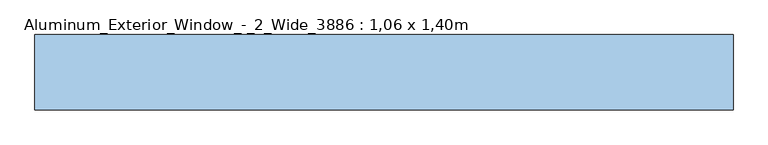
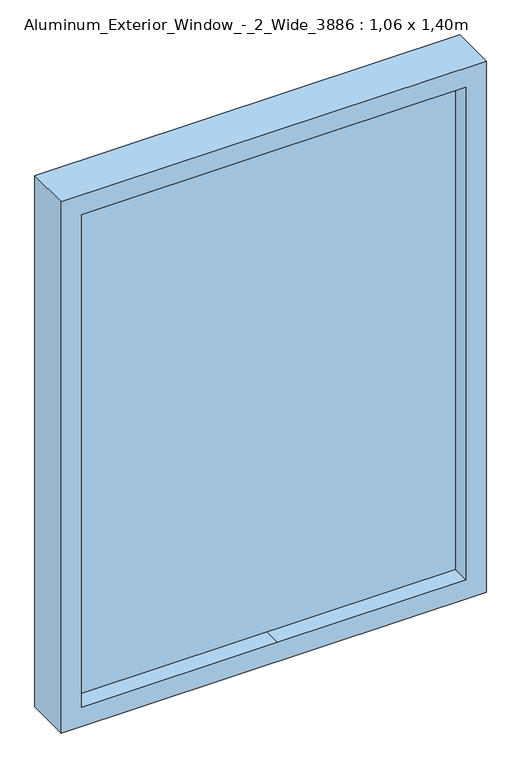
"""IFC4 building model written with IfcOpenShell, lengths in millimetres: window geometry, Aluminum_Exterior_Window_-_2_Wide_3886 : 1,06 x 1,40m."""

from ifc_helpers import new_model, si_unit, frame, origin, place, context, project, spatial, polyline, outline, extrude, source, transform, mapped, element, save


def aluminum_exterior_window_2_wide_3886_1_06_x_1_40m_01332d29(model_context):
    return source(origin(), model_context, "Body", "SweptSolid", [
        extrude(outline(polyline([(2460.0, -1371.6), (1060.0, -1371.6), (1060.0, -311.6), (2460.0, -311.6), (2460.0, -1371.6)]), holes=[polyline([(2409.2, -867.0), (2409.2, -362.4), (1110.8, -362.4), (1110.8, -833.8808837), (1110.8, -1320.8), (2409.2, -1320.8), (2409.2, -867.0)])]), frame((0.0, -38.1424754, 0.0), z_axis=(0.0, 1.0, 0.0), x_axis=(0.0, 0.0, 1.0)), (0.0, 0.0, 1.0), 114.3),
        extrude(outline(polyline([(2409.2, -867.0), (2409.2, -1320.8), (1110.8, -1320.8), (1110.8, -840.891469), (1110.8, -362.4), (2409.2, -362.4), (2409.2, -867.0)])), frame((0.0, 6.3075246, 0.0), z_axis=(0.0, 1.0, 0.0), x_axis=(0.0, 0.0, 1.0)), (0.0, 0.0, 1.0), 25.4),
    ])


if __name__ == "__main__":
    model = new_model("IFC4")
    model_context = context("Model", 3, world=origin())
    ifc_project = project(units=[si_unit("LENGTHUNIT", "METRE", prefix="MILLI")], contexts=[model_context])
    site = spatial("IfcSite", under=ifc_project)
    building = spatial("IfcBuilding", under=site)
    placement = place(None, origin())
    aluminum_exterior_window_2_wide_3886_1_06_x_1_40m_shape = aluminum_exterior_window_2_wide_3886_1_06_x_1_40m_01332d29(model_context)
    element("IfcWindow", 1, ObjectType="Aluminum_Exterior_Window_-_2_Wide_3886 : 1,06 x 1,40m", at=placement, inside=building, context=model_context, shape_type="MappedRepresentation", body=[
        mapped(aluminum_exterior_window_2_wide_3886_1_06_x_1_40m_shape, transform((0.0, 0.0, 0.0), x_axis=(1.0, 0.0, 0.0), y_axis=(0.0, 1.0, 0.0), z_axis=(0.0, 0.0, 1.0))),
    ])
    save(model, "model.ifc")
